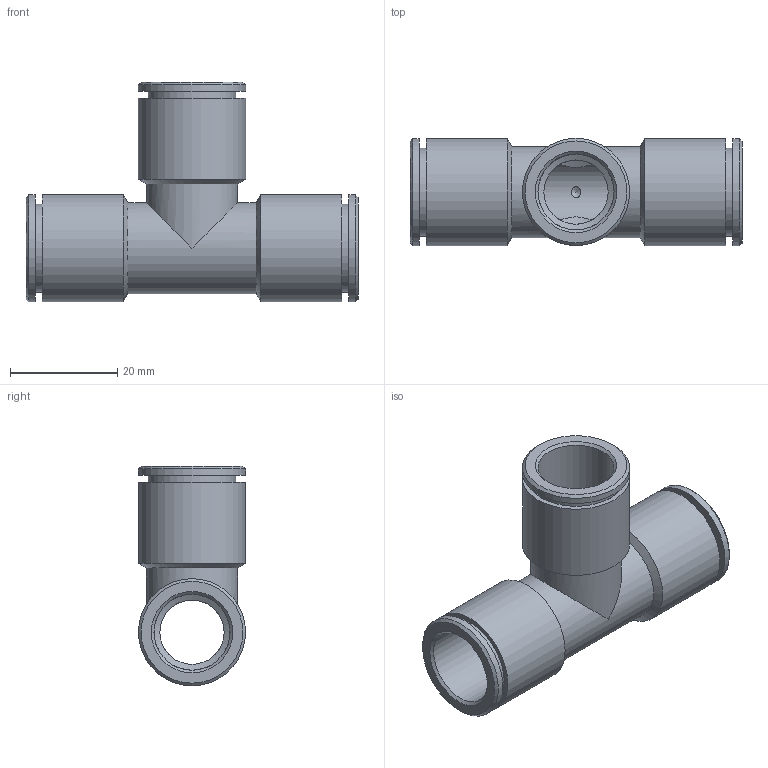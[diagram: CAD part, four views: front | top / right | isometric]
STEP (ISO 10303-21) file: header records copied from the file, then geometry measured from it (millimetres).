
FILE_DESCRIPTION(/* description */ (''),/* implementation_level */ '2;1');
FILE_NAME(/* name */ 'V200507_IPSO_05_14',/* time_stamp */ '2016-09-06T12:10:55+02:00',/* author */ (''),/* organization */ (''),/* preprocessor_version */ 'ST-DEVELOPER v16.5',/* originating_system */ 'HiCAD 2016 2101.0 Build 254',/* authorisation */ '');
FILE_SCHEMA (('AUTOMOTIVE_DESIGN { 1 0 10303 214 1 1 1 1 }'));
Length unit declared in the file: millimetre
Products named in the file (5): Root; R200507; DR14
Assembly tree (4 placements, depth 2):
  Root
    R200507
    DR14
    DR14
    DR14
Bounding box: 62 x 20 x 41 mm (x, y, z)
Volume: 8983.3 mm3; surface area: 13515.7 mm2
Topology: 4 solids, 4 shells, 72 faces, 143 edges, 87 vertices
Faces by surface type: cylinder 30, cone 24, plane 18
Full cylindrical faces by diameter (mm): 12 x2, 14.15 x3, 14.2 x3, 15.3 x3, 16.4 x3, 16.5 x3, 17 x2, 18.1 x3, 20 x6
Entity records: 2675 total; most frequent: CARTESIAN_POINT 473, DIRECTION 312, PRESENTATION_STYLE_ASSIGNMENT 166, COLOUR_RGB 163, DRAUGHTING_PRE_DEFINED_CURVE_FONT 162, CURVE_STYLE 162, OVER_RIDING_STYLED_ITEM 162, ORIENTED_EDGE 162
